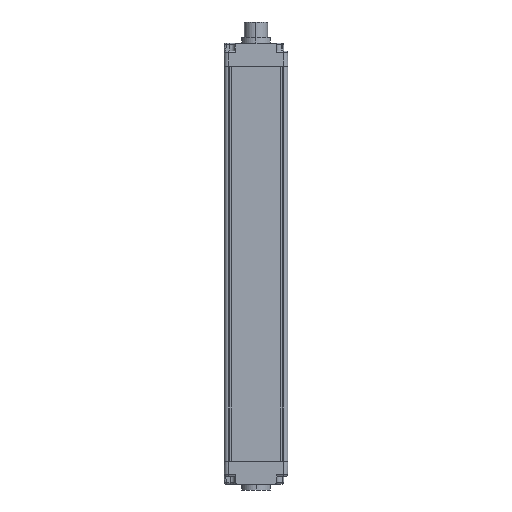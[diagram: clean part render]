
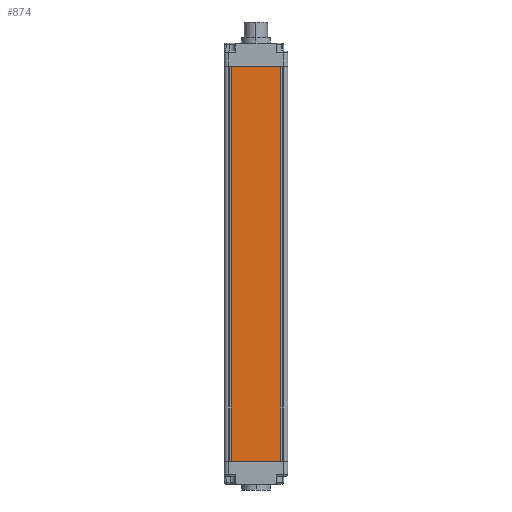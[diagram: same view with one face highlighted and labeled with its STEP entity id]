
A CAD part, left-side view. The second image highlights one B-rep face of the part: STEP entity #874.
In plain terms, the highlighted planar face has unit normal (-1, 0, 0).
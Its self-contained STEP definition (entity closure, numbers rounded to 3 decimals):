
#874=ADVANCED_FACE('',(#1849),#1442,.T.);
#1442=PLANE('',#12951);
#1849=FACE_OUTER_BOUND('',#2458,.T.);
#2458=EDGE_LOOP('',(#6196,#6197,#6198,#6199));
#3058=LINE('',#17687,#4226);
#3088=LINE('',#17781,#4256);
#3276=LINE('',#18324,#4444);
#3277=LINE('',#18326,#4445);
#4226=VECTOR('',#14065,1.);
#4256=VECTOR('',#14141,1.);
#4444=VECTOR('',#14713,1.);
#4445=VECTOR('',#14716,1.);
#6196=ORIENTED_EDGE('',*,*,#10487,.F.);
#6197=ORIENTED_EDGE('',*,*,#10795,.T.);
#6198=ORIENTED_EDGE('',*,*,#10534,.T.);
#6199=ORIENTED_EDGE('',*,*,#10796,.T.);
#9231=VERTEX_POINT('',#17686);
#9232=VERTEX_POINT('',#17688);
#9272=VERTEX_POINT('',#17780);
#9273=VERTEX_POINT('',#17782);
#10487=EDGE_CURVE('',#9231,#9232,#3058,.T.);
#10534=EDGE_CURVE('',#9273,#9272,#3088,.T.);
#10795=EDGE_CURVE('',#9231,#9273,#3276,.T.);
#10796=EDGE_CURVE('',#9272,#9232,#3277,.T.);
#12951=AXIS2_PLACEMENT_3D('',#18327,#14717,#14718);
#14065=DIRECTION('',(0.,1.,0.));
#14141=DIRECTION('',(0.,1.,0.));
#14713=DIRECTION('',(0.,0.,1.));
#14716=DIRECTION('',(0.,0.,-1.));
#14717=DIRECTION('',(-1.,0.,0.));
#14718=DIRECTION('',(0.,1.,0.));
#17686=CARTESIAN_POINT('',(-15.9,-12.8,0.));
#17687=CARTESIAN_POINT('',(-15.9,-12.8,0.));
#17688=CARTESIAN_POINT('',(-15.9,12.8,0.));
#17780=CARTESIAN_POINT('',(-15.9,12.8,205.));
#17781=CARTESIAN_POINT('',(-15.9,16.5,205.));
#17782=CARTESIAN_POINT('',(-15.9,-12.8,205.));
#18324=CARTESIAN_POINT('',(-15.9,-12.8,0.));
#18326=CARTESIAN_POINT('',(-15.9,12.8,100.));
#18327=CARTESIAN_POINT('',(-15.9,16.5,0.));
